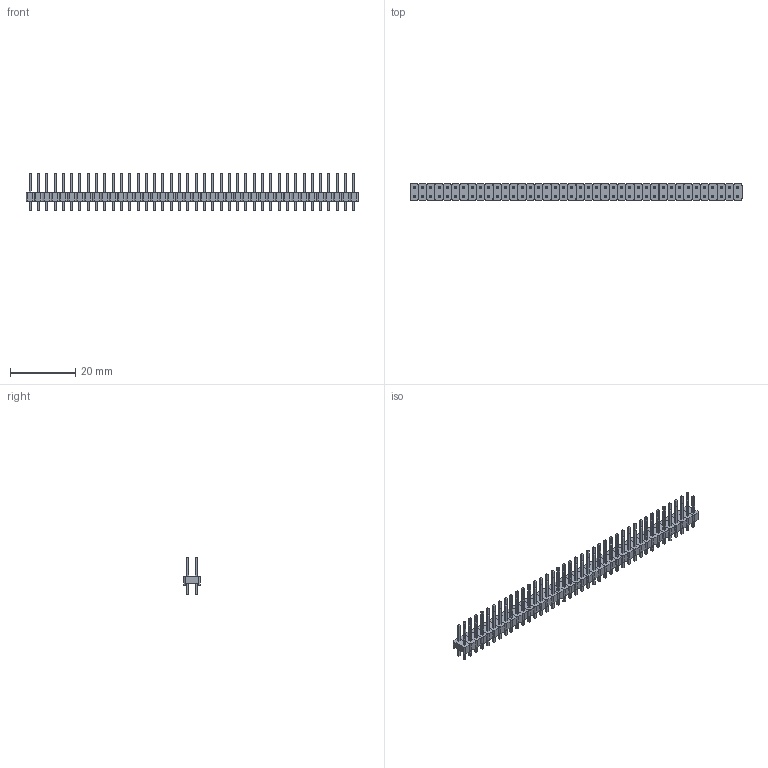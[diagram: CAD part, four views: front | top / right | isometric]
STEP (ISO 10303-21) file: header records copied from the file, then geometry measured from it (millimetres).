
FILE_DESCRIPTION(('FreeCAD Model'),'2;1');
FILE_NAME('Open CASCADE Shape Model','2022-03-28T14:39:01',( 'Engenharia Metaltex'),('Metaltex'), 'Open CASCADE STEP processor 7.5','FreeCAD','Unknown');
FILE_SCHEMA(('AUTOMOTIVE_DESIGN { 1 0 10303 214 1 1 1 1 }'));
Length unit declared in the file: millimetre
Products named in the file (161): BPSC; 40; Base039; Pino080; Pino079; 1; Base; Pino1; Pino2; 2; Base001; Pino003; Pino004; 3; Base002; Pino006; Pino005; 4; Base003; Pino008; Pino007; 5; Base004; Pino009; Pino010; 6; Base005; Pino012; Pino011; 7; Base006; Pino013; Pino014; 8; Base007; Pino015; Pino016; 9; Base008; Pino017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
Assembly tree (160 placements, depth 3):
  BPSC
    40
      Base039
      Pino080
      Pino079
    1
      Base
      Pino1
      Pino2
    2
      Base001
      Pino003
      Pino004
    3
      Base002
      Pino006
      Pino005
    4
      Base003
      Pino008
      Pino007
    5
      Base004
      Pino009
      Pino010
    6
      Base005
      Pino012
      Pino011
    7
      Base006
      Pino013
      Pino014
    8
      Base007
      Pino015
      Pino016
    9
      Base008
      Pino017
      Pino018
    10
      Base009
      Pino019
      Pino020
    11
      Base010
      Pino021
      Pino022
    12
      Base011
      Pino023
      Pino024
    13
      Base012
      Pino025
      Pino026
    14
      Base013
      Pino027
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Bounding box: 101.6 x 5.08 x 11.54 mm (x, y, z)
Volume: 1396.9 mm3; surface area: 5145.3 mm2
Topology: 120 solids, 120 shells, 2000 faces, 4640 edges, 2880 vertices
Faces by surface type: plane 1840, cylinder 160
Entity records: 120019 total; most frequent: CARTESIAN_POINT 19921, DIRECTION 18402, LINE 13280, VECTOR 13280, ORIENTED_EDGE 9280, PCURVE 9280, DEFINITIONAL_REPRESENTATION 9280, EDGE_CURVE 4640
